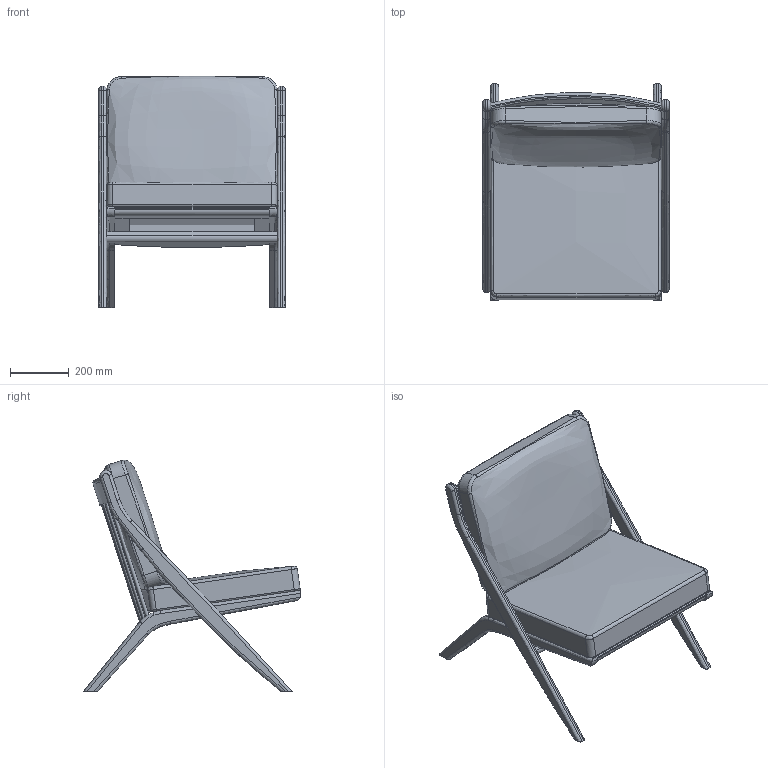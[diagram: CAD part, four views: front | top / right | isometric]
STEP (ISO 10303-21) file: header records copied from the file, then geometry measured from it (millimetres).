
FILE_DESCRIPTION(/* description */ (''),/* implementation_level */ '2;1');
FILE_NAME(/* name */ 'kinoshita_coccole_c110',/* time_stamp */ '2026-08-07T20:44:41+09:00',/* author */ (''),/* organization */ (''),/* preprocessor_version */ 'ST-DEVELOPER v16.5',/* originating_system */ '',/* authorisation */ '');
FILE_SCHEMA (('AUTOMOTIVE_DESIGN'));
Length unit declared in the file: millimetre
Products named in the file (1): Document
Bounding box: 635 x 740.48 x 790.05 mm (x, y, z)
Volume: 39128431 mm3; surface area: 3070403 mm2
Topology: 2 solids, 3 shells, 282 faces, 719 edges, 428 vertices
Faces by surface type: bspline 174, plane 108
Entity records: 11098 total; most frequent: CARTESIAN_POINT 6856, ORIENTED_EDGE 1416, EDGE_CURVE 719, VERTEX_POINT 428, B_SPLINE_CURVE_WITH_KNOTS 413, EDGE_LOOP 304, ADVANCED_FACE 282, FACE_OUTER_BOUND 282
